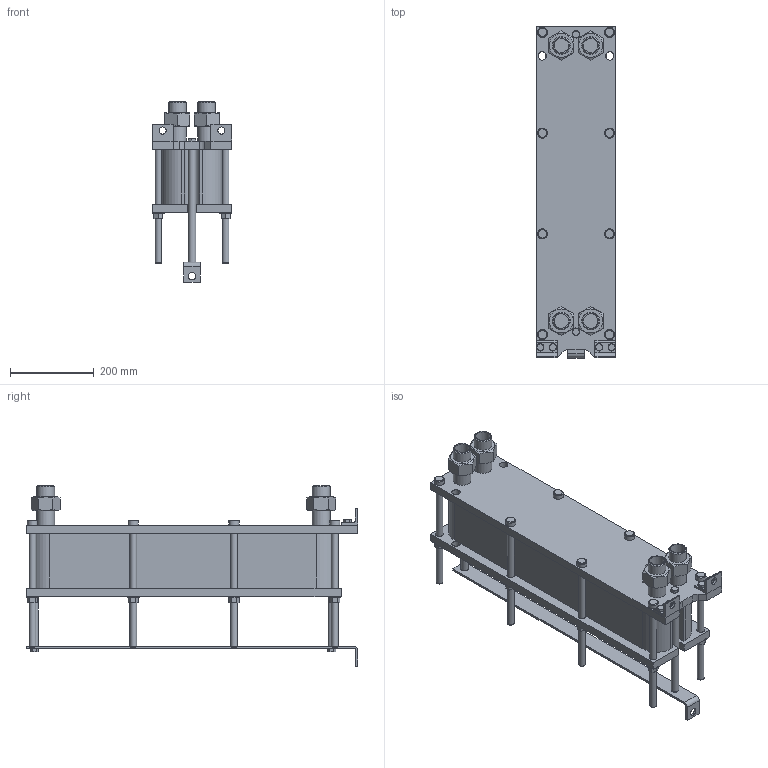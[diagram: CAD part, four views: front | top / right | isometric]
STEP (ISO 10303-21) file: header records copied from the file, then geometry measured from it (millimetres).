
FILE_DESCRIPTION(/* description */ (''),/* implementation_level */ '2;1');
FILE_NAME(/* name */ 'C:\Users\zhuro\Desktop\ENCO\TO\ЭН-008\ЭН-0,5-008-42-1.stp',/* time_stamp */ '2022-06-06T10:48:29+03:00',/* author */ ('zhuro'),/* organization */ (''),/* preprocessor_version */ 'ST-DEVELOPER v18.1',/* originating_system */ 'Autodesk Inventor 2022',/* authorisation */ '');
FILE_SCHEMA (('AUTOMOTIVE_DESIGN { 1 0 10303 214 3 1 1 }'));
Length unit declared in the file: millimetre
Products named in the file (1): ЭН-0,5-008-42-1
Bounding box: 190 x 790 x 430.6 mm (x, y, z)
Volume: 19998592.9 mm3; surface area: 1530912.6 mm2
Topology: 40 solids, 40 shells, 428 faces, 924 edges, 606 vertices
Faces by surface type: plane 273, cylinder 109, cone 40, torus 6
Full cylindrical faces by diameter (mm): 12 x6, 14 x2, 16 x20, 17 x8, 18 x19, 20 x5, 24 x8, 28 x8, 34.3 x8, 42.3 x8
Entity records: 15843 total; most frequent: CARTESIAN_POINT 5991, DIRECTION 1984, ORIENTED_EDGE 1848, EDGE_CURVE 924, AXIS2_PLACEMENT_3D 715, VERTEX_POINT 606, LINE 554, VECTOR 554
